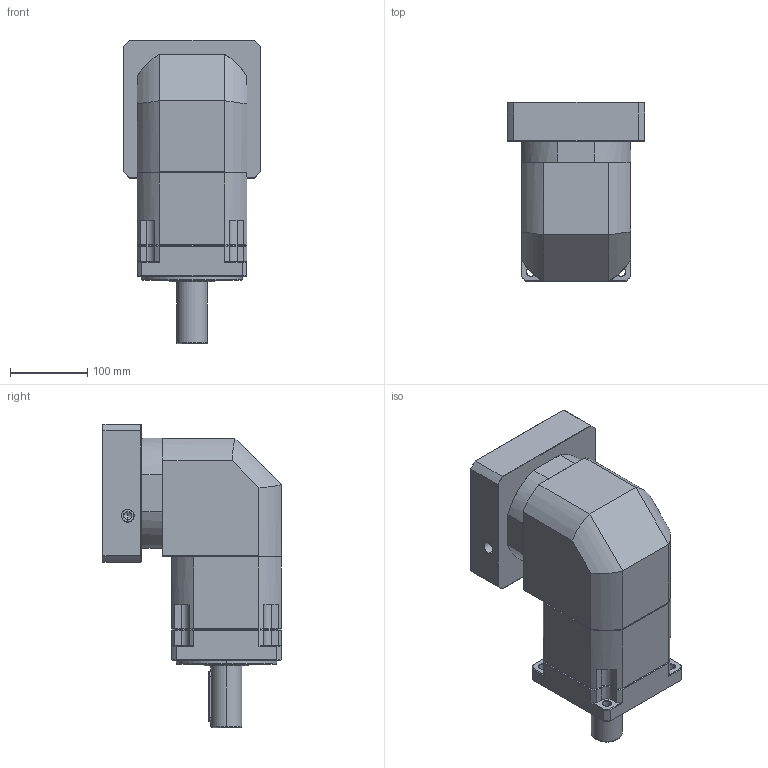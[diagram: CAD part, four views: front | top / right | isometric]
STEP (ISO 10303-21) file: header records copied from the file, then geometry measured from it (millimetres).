
FILE_DESCRIPTION (( 'STEP AP214' ), '1' );
FILE_NAME ('ZBR142A-D40-L2-P2-35-114.3-200-M12.step', '2023-09-02T07:12:46', ( '' ), ( '' ), 'SwSTEP 2.0', 'SolidWorks 2016', '' );
FILE_SCHEMA (( 'AUTOMOTIVE_DESIGN' ));
Length unit declared in the file: millimetre
Products named in the file (1): ZBR142A-D40-L2-P2-35-114.3-200-M12
Bounding box: 178 x 231 x 391.7 mm (x, y, z)
Volume: 6734916.2 mm3; surface area: 446060.4 mm2
Topology: 6 solids, 6 shells, 2298 faces, 6061 edges, 3870 vertices
Faces by surface type: plane 1120, cylinder 414, bspline 410, cone 332, torus 22
Entity records: 128733 total; most frequent: CARTESIAN_POINT 49981, ORIENTED_EDGE 12062, DIRECTION 9528, EDGE_CURVE 6031, VECTOR 3898, LINE 3898, VERTEX_POINT 3870, AXIS2_PLACEMENT_3D 2815
